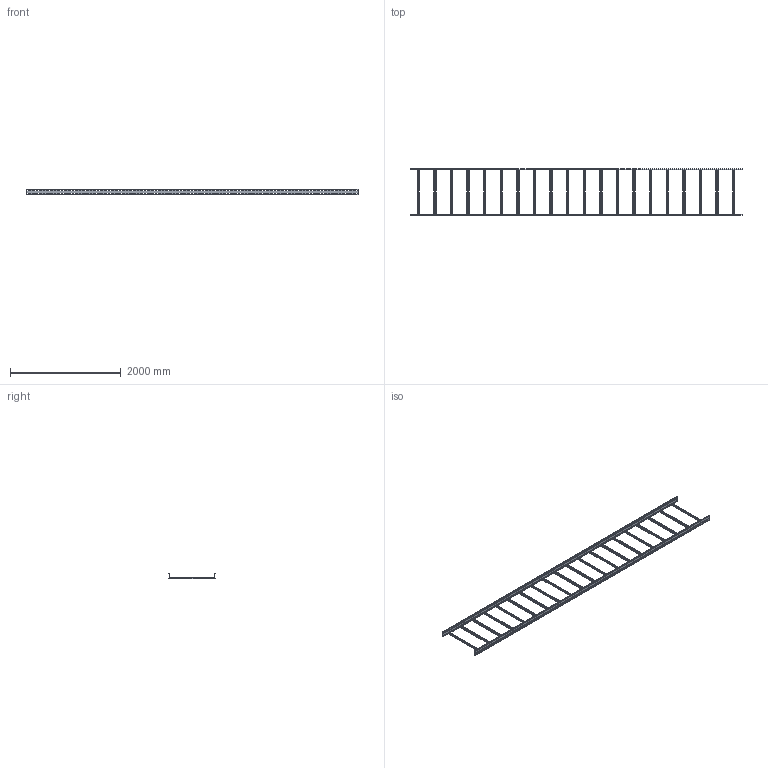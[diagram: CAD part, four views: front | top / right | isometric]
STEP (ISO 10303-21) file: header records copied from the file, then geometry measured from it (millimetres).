
FILE_DESCRIPTION(/* description */ ('','CAx-IF Rec.Pracs.---Representation and Presentation of Product Manufacturing Information (PMI)---4.0---2014-10-13'),/* implementation_level */ '2;1');
FILE_NAME(/* name */ 'Eurostrut_ECL100-800-6_Cable Ladder.step',/* time_stamp */ '2026-09-03T11:59:42+02:00',/* author */ (''),/* organization */ (''),/* preprocessor_version */ 'ST-DEVELOPER v20.1',/* originating_system */ 'Autodesk Revit 2027 27.2.0.39',/* authorisation */ '');
FILE_SCHEMA (('AP242_MANAGED_MODEL_BASED_3D_ENGINEERING_MIM_LF { 1 0 10303 442 2 1 4 }'));
Products named in the file (4): TopLevelAssembly; 60mm; 60mm_1; Cable Ladder Rung_Slotted
Assembly tree (22 placements, depth 2):
  TopLevelAssembly
    60mm
    60mm_1
    Cable Ladder Rung_Slotted  x20
Bounding box: 6000 x 846 x 100 mm (x, y, z)
Volume: 5632913.9 mm3; surface area: 6470224.3 mm2
Topology: 22 solids, 22 shells, 5540 faces, 16488 edges, 10992 vertices
Faces by surface type: plane 3836, bspline 1600, cylinder 104
Entity records: 75848 total; most frequent: CARTESIAN_POINT 15416, ORIENTED_EDGE 12912, DIRECTION 10880, EDGE_CURVE 6456, LINE 6240, VECTOR 6240, VERTEX_POINT 4304, EDGE_LOOP 3198
